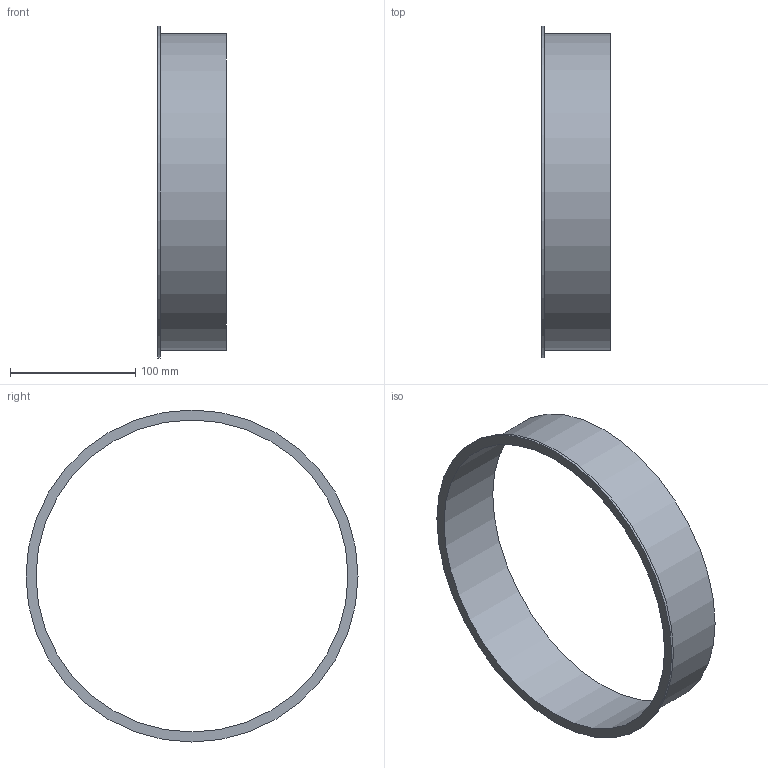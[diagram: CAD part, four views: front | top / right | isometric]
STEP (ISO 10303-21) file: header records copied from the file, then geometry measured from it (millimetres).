
FILE_DESCRIPTION((''),'2;1');
FILE_NAME('U:\Wolfgang\Marcel-3D\fertig\Kapitel 1\2521012.stp','2010-05-31T11:35:27',('TK2'),(''),'Autodesk Inventor 2010','Autodesk Inventor 2010','');
FILE_SCHEMA(('AUTOMOTIVE_DESIGN { 1 0 10303 214 1 1 1 1 }'));
Length unit declared in the file: millimetre
Products named in the file (1): 2521012
Bounding box: 55 x 265 x 265 mm (x, y, z)
Volume: 96503.4 mm3; surface area: 99733 mm2
Topology: 1 solids, 1 shells, 6 faces, 9 edges, 6 vertices
Faces by surface type: cylinder 3, plane 3
Full cylindrical faces by diameter (mm): 249 x1, 253 x1, 265 x1
Entity records: 154 total; most frequent: DIRECTION 26, CARTESIAN_POINT 19, AXIS2_PLACEMENT_3D 13, ORIENTED_EDGE 12, EDGE_LOOP 12, VERTEX_POINT 6, CIRCLE 6, EDGE_CURVE 6
